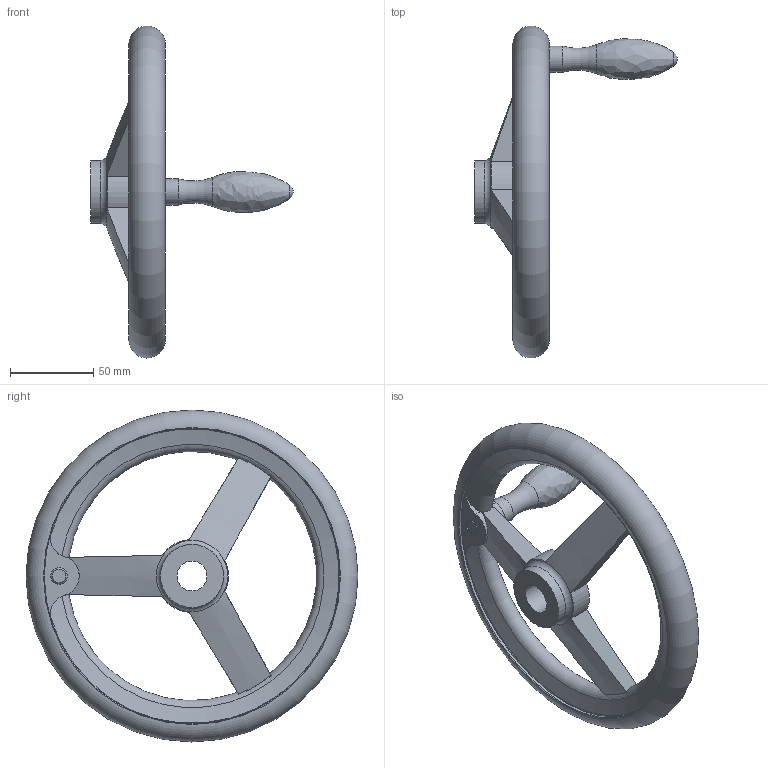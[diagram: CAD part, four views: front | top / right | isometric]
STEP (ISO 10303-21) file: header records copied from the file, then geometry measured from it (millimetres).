
FILE_DESCRIPTION( ( 'STEP AP203' ), '1' );
FILE_NAME( 'C:/Temp/Ganter_Step_05_03_2020/data/1_3/din_950/din_950_b/din_950_b_f/Handwheel DIN 950-GG-200-B18-F.stp', '2020-03-05T10:30:14', ( 'License CC BY-ND 4.0' ), ( 'CADENAS' ), ' ', 'PARTsolutions', ' ' );
FILE_SCHEMA( ( 'CONFIG_CONTROL_DESIGN' ) );
Length unit declared in the file: millimetre
Products named in the file (1): _Handwheel DIN 950-GG-200-B18-F
Bounding box: 122 x 199.96 x 199.96 mm (x, y, z)
Volume: 297887.5 mm3; surface area: 63511.5 mm2
Topology: 1 solids, 1 shells, 49 faces, 137 edges, 87 vertices
Faces by surface type: cylinder 16, torus 15, plane 11, cone 5, bspline 1, sphere 1
Full cylindrical faces by diameter (mm): 10 x1, 15.8 x1, 18 x1, 38 x2, 178 x2
Entity records: 1914 total; most frequent: CARTESIAN_POINT 768, ORIENTED_EDGE 222, DIRECTION 210, EDGE_CURVE 111, AXIS2_PLACEMENT_3D 98, VERTEX_POINT 83, EDGE_LOOP 74, FACE_OUTER_BOUND 65
